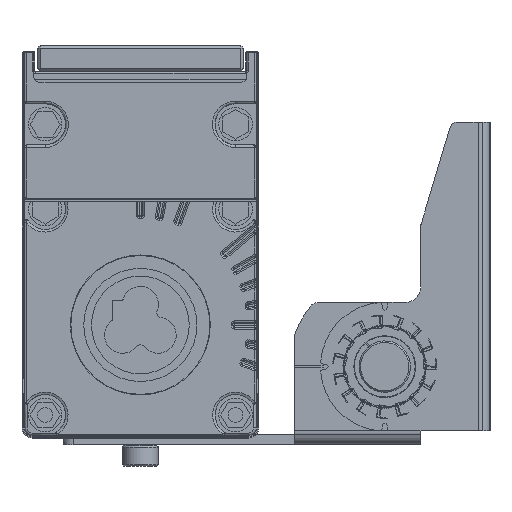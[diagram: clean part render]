
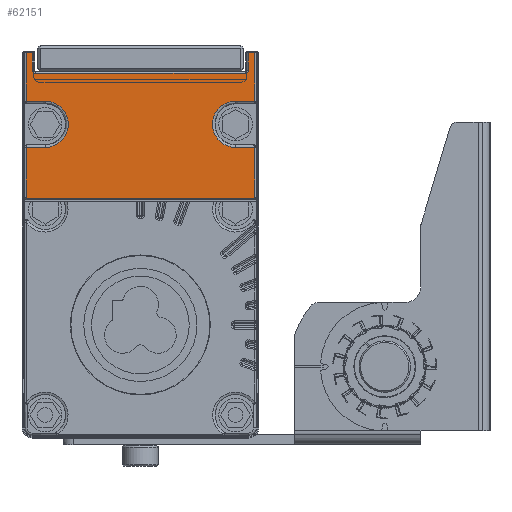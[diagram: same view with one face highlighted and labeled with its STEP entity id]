
A CAD part, front view. The second image highlights one B-rep face of the part: STEP entity #62151.
In plain terms, the highlighted planar face has unit normal (0, -1, 0).
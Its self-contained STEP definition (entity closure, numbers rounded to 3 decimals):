
#884=ELLIPSE('',#66851,0.2,0.2);
#885=ELLIPSE('',#66864,0.2,0.2);
#886=ELLIPSE('',#66871,0.2,0.2);
#887=ELLIPSE('',#66878,0.2,0.2);
#5161=CIRCLE('',#66848,4.491);
#5165=CIRCLE('',#66856,0.2);
#5167=CIRCLE('',#66860,0.2);
#5172=CIRCLE('',#66869,4.491);
#5211=CIRCLE('',#66956,0.6);
#5212=CIRCLE('',#66957,0.6);
#17887=ORIENTED_EDGE('',*,*,#24577,.T.);
#17888=ORIENTED_EDGE('',*,*,#24576,.T.);
#17889=ORIENTED_EDGE('',*,*,#24574,.T.);
#17890=ORIENTED_EDGE('',*,*,#24573,.T.);
#17891=ORIENTED_EDGE('',*,*,#24582,.T.);
#17892=ORIENTED_EDGE('',*,*,#24673,.T.);
#17893=ORIENTED_EDGE('',*,*,#24674,.T.);
#17894=ORIENTED_EDGE('',*,*,#24675,.T.);
#17895=ORIENTED_EDGE('',*,*,#24587,.T.);
#17896=ORIENTED_EDGE('',*,*,#24572,.T.);
#17897=ORIENTED_EDGE('',*,*,#24571,.T.);
#17898=ORIENTED_EDGE('',*,*,#24569,.T.);
#17899=ORIENTED_EDGE('',*,*,#24568,.T.);
#17900=ORIENTED_EDGE('',*,*,#24567,.T.);
#17901=ORIENTED_EDGE('',*,*,#24565,.T.);
#17902=ORIENTED_EDGE('',*,*,#24563,.T.);
#17903=ORIENTED_EDGE('',*,*,#24561,.T.);
#17904=ORIENTED_EDGE('',*,*,#24559,.T.);
#17905=ORIENTED_EDGE('',*,*,#24557,.T.);
#17906=ORIENTED_EDGE('',*,*,#24556,.T.);
#17907=ORIENTED_EDGE('',*,*,#24553,.T.);
#17908=ORIENTED_EDGE('',*,*,#24552,.T.);
#17909=ORIENTED_EDGE('',*,*,#24550,.T.);
#17910=ORIENTED_EDGE('',*,*,#24549,.T.);
#24549=EDGE_CURVE('',#28610,#28611,#5161,.F.);
#24550=EDGE_CURVE('',#28521,#28610,#31684,.F.);
#24552=EDGE_CURVE('',#28612,#28521,#884,.T.);
#24553=EDGE_CURVE('',#28613,#28612,#31685,.T.);
#24556=EDGE_CURVE('',#28614,#28613,#5165,.T.);
#24557=EDGE_CURVE('',#28615,#28614,#31686,.T.);
#24559=EDGE_CURVE('',#28616,#28615,#5167,.T.);
#24561=EDGE_CURVE('',#28617,#28616,#31687,.T.);
#24563=EDGE_CURVE('',#28531,#28617,#885,.T.);
#24565=EDGE_CURVE('',#28618,#28531,#31688,.F.);
#24567=EDGE_CURVE('',#28619,#28618,#5172,.F.);
#24568=EDGE_CURVE('',#28537,#28619,#31689,.F.);
#24569=EDGE_CURVE('',#28620,#28537,#886,.T.);
#24571=EDGE_CURVE('',#28538,#28620,#31690,.T.);
#24572=EDGE_CURVE('',#28562,#28538,#31691,.T.);
#24573=EDGE_CURVE('',#28539,#28546,#31692,.T.);
#24574=EDGE_CURVE('',#28621,#28539,#31693,.T.);
#24576=EDGE_CURVE('',#28545,#28621,#887,.T.);
#24577=EDGE_CURVE('',#28611,#28545,#31694,.F.);
#24582=EDGE_CURVE('',#28546,#28624,#31697,.T.);
#24587=EDGE_CURVE('',#28626,#28562,#31701,.T.);
#24673=EDGE_CURVE('',#28624,#28678,#5211,.F.);
#24674=EDGE_CURVE('',#28678,#28679,#31752,.T.);
#24675=EDGE_CURVE('',#28679,#28626,#5212,.F.);
#28521=VERTEX_POINT('',#262877);
#28531=VERTEX_POINT('',#262926);
#28537=VERTEX_POINT('',#262965);
#28538=VERTEX_POINT('',#262972);
#28539=VERTEX_POINT('',#262976);
#28545=VERTEX_POINT('',#263012);
#28546=VERTEX_POINT('',#263018);
#28562=VERTEX_POINT('',#263070);
#28610=VERTEX_POINT('',#263316);
#28611=VERTEX_POINT('',#263318);
#28612=VERTEX_POINT('',#263335);
#28613=VERTEX_POINT('',#263339);
#28614=VERTEX_POINT('',#263343);
#28615=VERTEX_POINT('',#263347);
#28616=VERTEX_POINT('',#263351);
#28617=VERTEX_POINT('',#263355);
#28618=VERTEX_POINT('',#263372);
#28619=VERTEX_POINT('',#263376);
#28620=VERTEX_POINT('',#263393);
#28621=VERTEX_POINT('',#263403);
#28624=VERTEX_POINT('',#263428);
#28626=VERTEX_POINT('',#263440);
#28678=VERTEX_POINT('',#263618);
#28679=VERTEX_POINT('',#263620);
#31684=LINE('',#263321,#34761);
#31685=LINE('',#263338,#34762);
#31686=LINE('',#263346,#34763);
#31687=LINE('',#263354,#34764);
#31688=LINE('',#263373,#34765);
#31689=LINE('',#263379,#34766);
#31690=LINE('',#263396,#34767);
#31691=LINE('',#263398,#34768);
#31692=LINE('',#263400,#34769);
#31693=LINE('',#263402,#34770);
#31694=LINE('',#263419,#34771);
#31697=LINE('',#263429,#34774);
#31701=LINE('',#263439,#34778);
#31752=LINE('',#263619,#34829);
#34761=VECTOR('',#79268,1000.);
#34762=VECTOR('',#79275,1000.);
#34763=VECTOR('',#79286,1000.);
#34764=VECTOR('',#79297,1000.);
#34765=VECTOR('',#79306,1000.);
#34766=VECTOR('',#79315,1000.);
#34767=VECTOR('',#79322,1000.);
#34768=VECTOR('',#79325,1000.);
#34769=VECTOR('',#79328,1000.);
#34770=VECTOR('',#79331,1000.);
#34771=VECTOR('',#79338,1000.);
#34774=VECTOR('',#79349,1000.);
#34778=VECTOR('',#79363,1000.);
#34829=VECTOR('',#79550,1000.);
#37598=EDGE_LOOP('',(#17887,#17888,#17889,#17890,#17891,#17892,#17893,#17894,
#17895,#17896,#17897,#17898,#17899,#17900,#17901,#17902,#17903,#17904,#17905,
#17906,#17907,#17908,#17909,#17910));
#40377=FACE_BOUND('',#37598,.T.);
#41241=PLANE('',#66955);
#62151=ADVANCED_FACE('',(#40377),#41241,.T.);
#66848=AXIS2_PLACEMENT_3D('',#263319,#79264,#79265);
#66851=AXIS2_PLACEMENT_3D('',#263336,#79271,#79272);
#66856=AXIS2_PLACEMENT_3D('',#263344,#79282,#79283);
#66860=AXIS2_PLACEMENT_3D('',#263350,#79291,#79292);
#66864=AXIS2_PLACEMENT_3D('',#263369,#79300,#79301);
#66869=AXIS2_PLACEMENT_3D('',#263377,#79311,#79312);
#66871=AXIS2_PLACEMENT_3D('',#263392,#79316,#79317);
#66878=AXIS2_PLACEMENT_3D('',#263417,#79334,#79335);
#66955=AXIS2_PLACEMENT_3D('',#263616,#79546,#79547);
#66956=AXIS2_PLACEMENT_3D('',#263617,#79548,#79549);
#66957=AXIS2_PLACEMENT_3D('',#263621,#79551,#79552);
#79264=DIRECTION('',(0.,-1.,0.));
#79265=DIRECTION('',(0.,0.,-1.));
#79268=DIRECTION('',(1.,0.,0.));
#79271=DIRECTION('',(0.,-1.,0.));
#79272=DIRECTION('',(0.,0.,1.));
#79275=DIRECTION('',(0.,0.,1.));
#79282=DIRECTION('',(0.,-1.,0.));
#79283=DIRECTION('',(0.,0.,-1.));
#79286=DIRECTION('',(1.,0.,0.));
#79291=DIRECTION('',(0.,-1.,0.));
#79292=DIRECTION('',(0.,0.,-1.));
#79297=DIRECTION('',(0.,0.,-1.));
#79300=DIRECTION('',(0.,-1.,0.));
#79301=DIRECTION('',(0.,0.,1.));
#79306=DIRECTION('',(1.,0.,0.));
#79311=DIRECTION('',(0.,-1.,0.));
#79312=DIRECTION('',(0.,0.,-1.));
#79315=DIRECTION('',(-1.,0.,0.));
#79316=DIRECTION('',(0.,-1.,0.));
#79317=DIRECTION('',(0.,0.,1.));
#79322=DIRECTION('',(0.,0.,-1.));
#79325=DIRECTION('',(-1.,0.,0.));
#79328=DIRECTION('',(-1.,0.,0.));
#79331=DIRECTION('',(0.,0.,1.));
#79334=DIRECTION('',(0.,-1.,0.));
#79335=DIRECTION('',(0.,0.,1.));
#79338=DIRECTION('',(-1.,0.,0.));
#79349=DIRECTION('',(0.,0.,-1.));
#79363=DIRECTION('',(0.,0.,1.));
#79546=DIRECTION('',(0.,-1.,0.));
#79547=DIRECTION('',(0.,0.,-1.));
#79548=DIRECTION('',(0.,-1.,0.));
#79549=DIRECTION('',(0.,0.,-1.));
#79550=DIRECTION('',(-1.,0.,0.));
#79551=DIRECTION('',(0.,-1.,0.));
#79552=DIRECTION('',(0.,0.,-1.));
#262877=CARTESIAN_POINT('',(22.2,-310.,-20.091));
#262926=CARTESIAN_POINT('',(-22.2,-310.,-20.091));
#262965=CARTESIAN_POINT('',(-22.2,-310.,-11.109));
#262972=CARTESIAN_POINT('',(-22.2,-310.,-1.7));
#262976=CARTESIAN_POINT('',(22.2,-310.,-1.7));
#263012=CARTESIAN_POINT('',(22.2,-310.,-11.109));
#263018=CARTESIAN_POINT('',(21.,-310.,-1.7));
#263070=CARTESIAN_POINT('',(-21.,-310.,-1.7));
#263316=CARTESIAN_POINT('',(18.5,-310.,-20.091));
#263318=CARTESIAN_POINT('',(18.5,-310.,-11.109));
#263319=CARTESIAN_POINT('',(18.5,-310.,-15.6));
#263321=CARTESIAN_POINT('',(-2.5,-310.,-20.091));
#263335=CARTESIAN_POINT('',(22.2,-310.,-20.095));
#263336=CARTESIAN_POINT('',(22.,-310.,-20.095));
#263338=CARTESIAN_POINT('',(22.2,-310.,5.9));
#263339=CARTESIAN_POINT('',(22.2,-310.,-29.8));
#263343=CARTESIAN_POINT('',(22.,-310.,-30.));
#263344=CARTESIAN_POINT('',(22.,-310.,-29.8));
#263346=CARTESIAN_POINT('',(-2.5,-310.,-30.));
#263347=CARTESIAN_POINT('',(-22.,-310.,-30.));
#263350=CARTESIAN_POINT('',(-22.,-310.,-29.8));
#263351=CARTESIAN_POINT('',(-22.2,-310.,-29.8));
#263354=CARTESIAN_POINT('',(-22.2,-310.,5.9));
#263355=CARTESIAN_POINT('',(-22.2,-310.,-20.095));
#263369=CARTESIAN_POINT('',(-22.,-310.,-20.095));
#263372=CARTESIAN_POINT('',(-18.5,-310.,-20.091));
#263373=CARTESIAN_POINT('',(-22.2,-310.,-20.091));
#263376=CARTESIAN_POINT('',(-18.5,-310.,-11.109));
#263377=CARTESIAN_POINT('',(-18.5,-310.,-15.6));
#263379=CARTESIAN_POINT('',(-18.5,-310.,-11.109));
#263392=CARTESIAN_POINT('',(-22.,-310.,-11.105));
#263393=CARTESIAN_POINT('',(-22.2,-310.,-11.105));
#263396=CARTESIAN_POINT('',(-22.2,-310.,5.9));
#263398=CARTESIAN_POINT('',(-2.5,-310.,-1.7));
#263400=CARTESIAN_POINT('',(-2.5,-310.,-1.7));
#263402=CARTESIAN_POINT('',(22.2,-310.,5.9));
#263403=CARTESIAN_POINT('',(22.2,-310.,-11.105));
#263417=CARTESIAN_POINT('',(22.,-310.,-11.105));
#263419=CARTESIAN_POINT('',(-2.5,-310.,-11.109));
#263428=CARTESIAN_POINT('',(21.,-310.,-5.1));
#263429=CARTESIAN_POINT('',(21.,-310.,5.9));
#263439=CARTESIAN_POINT('',(-21.,-310.,5.9));
#263440=CARTESIAN_POINT('',(-21.,-310.,-5.1));
#263616=CARTESIAN_POINT('',(-2.5,-310.,5.9));
#263617=CARTESIAN_POINT('',(20.4,-310.,-5.1));
#263618=CARTESIAN_POINT('',(20.4,-310.,-5.7));
#263619=CARTESIAN_POINT('',(-2.5,-310.,-5.7));
#263620=CARTESIAN_POINT('',(-20.4,-310.,-5.7));
#263621=CARTESIAN_POINT('',(-20.4,-310.,-5.1));
